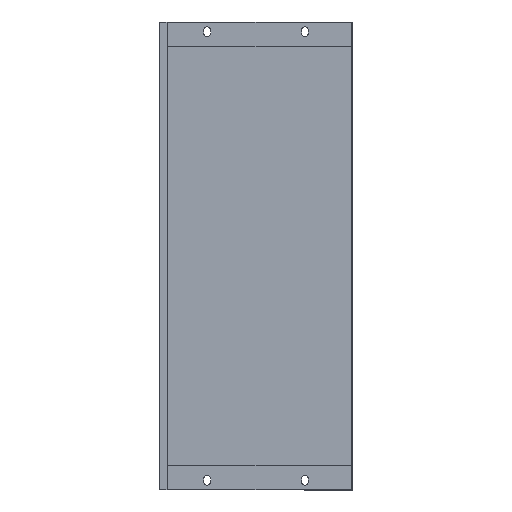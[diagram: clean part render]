
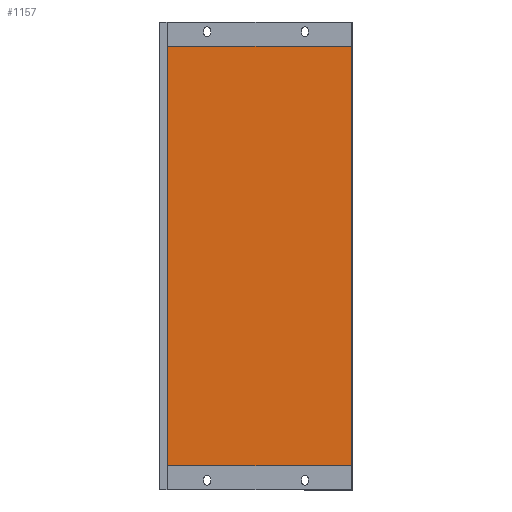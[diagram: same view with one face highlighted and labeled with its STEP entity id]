
A CAD part, front view. The second image highlights one B-rep face of the part: STEP entity #1157.
In plain terms, the highlighted planar face has unit normal (0, -1, 0).
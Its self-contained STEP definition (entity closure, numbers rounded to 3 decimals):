
#164 = CARTESIAN_POINT ( 'NONE',  ( -8., 61.1, 479. ) ) ;
#176 = PLANE ( 'NONE',  #1263 ) ;
#212 = CARTESIAN_POINT ( 'NONE',  ( 188.6, 61.1, 25. ) ) ;
#272 = CARTESIAN_POINT ( 'NONE',  ( -6.6, 61.1, 454. ) ) ;
#289 = VERTEX_POINT ( 'NONE', #272 ) ;
#303 = EDGE_LOOP ( 'NONE', ( #572, #1274, #309, #797 ) ) ;
#309 = ORIENTED_EDGE ( 'NONE', *, *, #998, .F. ) ;
#322 = CARTESIAN_POINT ( 'NONE',  ( 0., 61.1, 454. ) ) ;
#352 = LINE ( 'NONE', #322, #1137 ) ;
#372 = CARTESIAN_POINT ( 'NONE',  ( 188.6, 61.1, 479. ) ) ;
#457 = VERTEX_POINT ( 'NONE', #212 ) ;
#572 = ORIENTED_EDGE ( 'NONE', *, *, #1257, .T. ) ;
#575 = LINE ( 'NONE', #372, #795 ) ;
#605 = DIRECTION ( 'NONE',  ( 0., 1., 0. ) ) ;
#647 = VERTEX_POINT ( 'NONE', #1277 ) ;
#716 = CARTESIAN_POINT ( 'NONE',  ( -6.6, 61.1, 25. ) ) ;
#718 = VECTOR ( 'NONE', #1046, 1000. ) ;
#795 = VECTOR ( 'NONE', #806, 1000. ) ;
#797 = ORIENTED_EDGE ( 'NONE', *, *, #804, .T. ) ;
#804 = EDGE_CURVE ( 'NONE', #647, #289, #352, .T. ) ;
#806 = DIRECTION ( 'NONE',  ( 0., 0., -1. ) ) ;
#840 = FACE_OUTER_BOUND ( 'NONE', #303, .T. ) ;
#924 = VECTOR ( 'NONE', #1319, 1000. ) ;
#950 = CARTESIAN_POINT ( 'NONE',  ( 0., 61.1, 25. ) ) ;
#972 = CARTESIAN_POINT ( 'NONE',  ( -6.6, 61.1, 479. ) ) ;
#998 = EDGE_CURVE ( 'NONE', #647, #457, #575, .T. ) ;
#1040 = DIRECTION ( 'NONE',  ( 0., 0., 1. ) ) ;
#1042 = EDGE_CURVE ( 'NONE', #1132, #457, #1169, .T. ) ;
#1046 = DIRECTION ( 'NONE',  ( 1., 0., 0. ) ) ;
#1132 = VERTEX_POINT ( 'NONE', #716 ) ;
#1137 = VECTOR ( 'NONE', #1321, 1000. ) ;
#1157 = ADVANCED_FACE ( 'NONE', ( #840 ), #176, .F. ) ;
#1169 = LINE ( 'NONE', #950, #718 ) ;
#1203 = LINE ( 'NONE', #972, #924 ) ;
#1257 = EDGE_CURVE ( 'NONE', #289, #1132, #1203, .T. ) ;
#1263 = AXIS2_PLACEMENT_3D ( 'NONE', #164, #605, #1040 ) ;
#1274 = ORIENTED_EDGE ( 'NONE', *, *, #1042, .T. ) ;
#1277 = CARTESIAN_POINT ( 'NONE',  ( 188.6, 61.1, 454. ) ) ;
#1319 = DIRECTION ( 'NONE',  ( 0., 0., -1. ) ) ;
#1321 = DIRECTION ( 'NONE',  ( -1., 0., 0. ) ) ;
